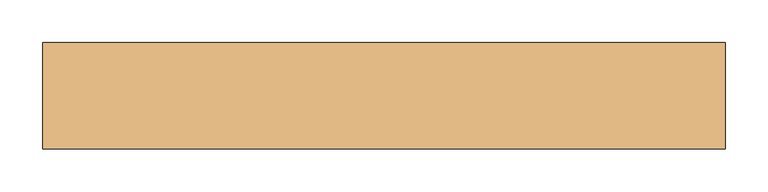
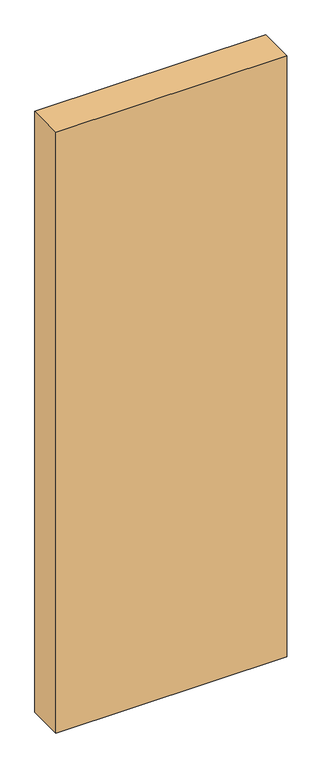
"""IFC4 building model written with IfcOpenShell, lengths in millimetres: door geometry, Dr_Проем-Простой : ДВ."""

from ifc_helpers import new_model, si_unit, frame, origin, place, context, project, spatial, polyline, outline, extrude, source, transform, mapped, element, save


def door_3b0bb860(model_context):
    return source(origin(), model_context, "Body", "SweptSolid", [
        extrude(outline(polyline([(605.3230163, 62.5), (605.3230163, -62.5), (-194.6769837, -62.5), (-194.6769837, 62.5), (605.3230163, 62.5)])), frame((0.0, 0.0, -100.0), z_axis=(0.0, 0.0, 1.0), x_axis=(1.0, 0.0, 0.0)), (0.0, 0.0, 1.0), 2200.0),
    ])


if __name__ == "__main__":
    model = new_model("IFC4")
    model_context = context("Model", 3, world=origin())
    ifc_project = project(units=[si_unit("LENGTHUNIT", "METRE", prefix="MILLI")], contexts=[model_context])
    site = spatial("IfcSite", under=ifc_project)
    building = spatial("IfcBuilding", under=site)
    placement = place(None, origin())
    door_shape = door_3b0bb860(model_context)
    element("IfcDoor", 1, ObjectType="Dr_Проем-Простой : ДВ", at=placement, inside=building, context=model_context, shape_type="MappedRepresentation", body=[
        mapped(door_shape, transform((0.0, 0.0, 0.0), x_axis=(1.0, 0.0, 0.0), y_axis=(0.0, 1.0, 0.0), z_axis=(0.0, 0.0, 1.0))),
    ])
    save(model, "model.ifc")
